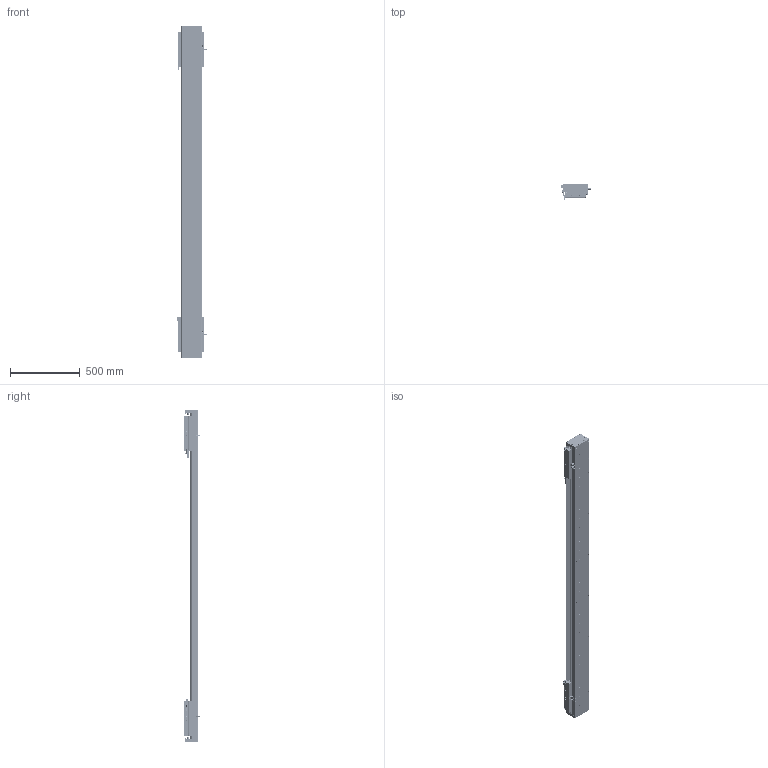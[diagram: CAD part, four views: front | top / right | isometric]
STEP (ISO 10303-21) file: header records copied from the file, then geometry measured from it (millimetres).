
FILE_DESCRIPTION (( 'STEP AP203' ), '1' );
FILE_NAME ('DA-C145-2-C3-T1760-C010-0.2 眻盄萇儂.STEP', '2025-08-13T10:23:00', ( '' ), ( '' ), 'SwSTEP 2.0', 'SolidWorks 2019', '' );
FILE_SCHEMA (( 'CONFIG_CONTROL_DESIGN' ));
Length unit declared in the file: millimetre
Products named in the file (38): 复件 DA145-C3-YB-B-00 压板B^CU145-W 滚珠滑台; 葩璃 CKM03-W060-C1C2-TP-0.2^DA-C145-2-C3-T-C010-0.2; IU-CU145-L 菁釱絳寢; 复件 DA95-HK-GT-00 滑块钢轨^CU145-W-00 一体化滑动台板; 复件 DA145-C3-DK-00 挡块^CU145-W 滚珠滑台; 葩璃 CU145 詩湍郪璃^DA-C145-2-C3-T-C010-0.2; 葩璃 CKMA01-W060-TRL^DA-C145-2-C3-T-C010-0.2; 葩璃 DMA-010-0.2 黍杅芛^DA-C145-2-C3-T-C010-0.2; 66245-CU145-HT-W-00 賑雄怢啣(3D芞祧)(00); 葩璃 DA95-HXJ-00 遣喳砎蝶^DA-C145-2-C3-T-C010-0.2; 复件 DA95-MFP-01 密封片^CU145-W 滚珠滑台; CU145-W 幗紩賑怢-1; 葩璃 PM-T45^DA-C145-2-C3-T-C010-0.2; 复件 DA145-DG 钢带端盖^复件 CU145 钢带组件_DA-C145-2-C3-T-C010-0.2; 复件 内六角平端紧定螺钉 GB.T77-2000 M5×10^CU145-W 滚珠滑台; 复件 DA145-GYP-00 光电感应片^DA-C145-2-C3-T-C010-0.2; 复件 DA95-DB-00  挡板^CU145-W 滚珠滑台; DKW168-HXJ-ZJ-00 笢潔滅袉砎蝶; 复件 纯铜油杯 6x6mm^CU145-W 滚珠滑台; DKW-KGZ-ZJ-00 中间光电开关支架; 葩璃 DA95-GT-T-00^IU-CU145-L 菁釱絳寢; 葩璃 XD-U-02L 棠掑喜^DA-C145-2-C3-T-C010-0.2; 葩璃 PM-Y65^DA-C145-2-C3-T-C010-0.2; TAY01-M8; DA-C145-2-C3-T1760-C010-0.2 眻盄萇儂; IU-CU145-L-00 菁釱(L2340); 葩璃 鞠褒情蹟譫 M3^DA-C145-2-C3-T-C010-0.2; CU145-W-00 珨极趙賑雄怢啣; 复件 DA145-C3-YB-A-00 压板A^CU145-W 滚珠滑台; CU145-W-00 珨极趙賑雄怢啣-1; 复件 DA146 钢带拉块^复件 CU145 钢带组件_DA-C145-2-C3-T-C010-0.2; DKW-GYP-ZJ-00 笢潔嫖萇覜茼え; 复件 DA146 钢带垫块^复件 CU145 钢带组件_DA-C145-2-C3-T-C010-0.2; CU145-W 幗紩賑怢; 复件 DA145 钢带^复件 CU145 钢带组件_DA-C145-2-C3-T-C010-0.2; 葩璃 DA145-C3-DP-A-00 菜えA^CU145-W 幗紩賑怢; 葩璃 DA145-C3-DP-B-00 菜えB^CU145-W 幗紩賑怢; 复件 半圆头内六角螺钉 M3×6^CU145-W 滚珠滑台
Assembly tree (180 placements, depth 4):
  DA-C145-2-C3-T1760-C010-0.2 眻盄萇儂
    IU-CU145-L 菁釱絳寢
      IU-CU145-L-00 菁釱(L2340)
      葩璃 DA95-GT-T-00^IU-CU145-L 菁釱絳寢  x4
    葩璃 CU145 詩湍郪璃^DA-C145-2-C3-T-C010-0.2
      复件 DA145-DG 钢带端盖^复件 CU145 钢带组件_DA-C145-2-C3-T-C010-0.2  x2
      复件 DA146 钢带拉块^复件 CU145 钢带组件_DA-C145-2-C3-T-C010-0.2  x2
      复件 DA146 钢带垫块^复件 CU145 钢带组件_DA-C145-2-C3-T-C010-0.2  x2
      复件 DA145 钢带^复件 CU145 钢带组件_DA-C145-2-C3-T-C010-0.2
    CU145-W 幗紩賑怢
      CU145-W-00 珨极趙賑雄怢啣
        66245-CU145-HT-W-00 賑雄怢啣(3D芞祧)(00)
        复件 DA95-HK-GT-00 滑块钢轨^CU145-W-00 一体化滑动台板  x8
      复件 DA95-MFP-01 密封片^CU145-W 滚珠滑台  x8
      复件 DA95-DB-00  挡板^CU145-W 滚珠滑台  x8
      复件 内六角平端紧定螺钉 GB.T77-2000 M5×10^CU145-W 滚珠滑台  x4
      复件 纯铜油杯 6x6mm^CU145-W 滚珠滑台  x4
      复件 半圆头内六角螺钉 M3×6^CU145-W 滚珠滑台  x16
      复件 DA145-C3-DK-00 挡块^CU145-W 滚珠滑台  x4
      葩璃 DA145-C3-DP-B-00 菜えB^CU145-W 幗紩賑怢  x2
      复件 DA145-C3-YB-B-00 压板B^CU145-W 滚珠滑台  x2
      葩璃 DA145-C3-DP-A-00 菜えA^CU145-W 幗紩賑怢  x3
      复件 DA145-C3-YB-A-00 压板A^CU145-W 滚珠滑台  x3
      TAY01-M8  x4
    CU145-W 幗紩賑怢-1
      CU145-W-00 珨极趙賑雄怢啣-1
        66245-CU145-HT-W-00 賑雄怢啣(3D芞祧)(00)
        复件 DA95-HK-GT-00 滑块钢轨^CU145-W-00 一体化滑动台板  x8
      复件 DA95-MFP-01 密封片^CU145-W 滚珠滑台  x8
      复件 DA95-DB-00  挡板^CU145-W 滚珠滑台  x8
      复件 内六角平端紧定螺钉 GB.T77-2000 M5×10^CU145-W 滚珠滑台  x4
      复件 纯铜油杯 6x6mm^CU145-W 滚珠滑台  x4
      复件 半圆头内六角螺钉 M3×6^CU145-W 滚珠滑台  x16
      复件 DA145-C3-DK-00 挡块^CU145-W 滚珠滑台  x4
      葩璃 DA145-C3-DP-B-00 菜えB^CU145-W 幗紩賑怢  x2
      复件 DA145-C3-YB-B-00 压板B^CU145-W 滚珠滑台  x2
      葩璃 DA145-C3-DP-A-00 菜えA^CU145-W 幗紩賑怢  x3
      复件 DA145-C3-YB-A-00 压板A^CU145-W 滚珠滑台  x3
      TAY01-M8  x4
    葩璃 CKMA01-W060-TRL^DA-C145-2-C3-T-C010-0.2
    葩璃 PM-T45^DA-C145-2-C3-T-C010-0.2  x4
    葩璃 XD-U-02L 棠掑喜^DA-C145-2-C3-T-C010-0.2
    葩璃 DA95-HXJ-00 遣喳砎蝶^DA-C145-2-C3-T-C010-0.2  x4
    葩璃 CKM03-W060-C1C2-TP-0.2^DA-C145-2-C3-T-C010-0.2  x2
    葩璃 DMA-010-0.2 黍杅芛^DA-C145-2-C3-T-C010-0.2  x2
    复件 DA145-GYP-00 光电感应片^DA-C145-2-C3-T-C010-0.2  x2
    DKW-GYP-ZJ-00 笢潔嫖萇覜茼え
    DKW-KGZ-ZJ-00 中间光电开关支架
    葩璃 PM-Y65^DA-C145-2-C3-T-C010-0.2
    葩璃 鞠褒情蹟譫 M3^DA-C145-2-C3-T-C010-0.2  x8
    DKW168-HXJ-ZJ-00 笢潔滅袉砎蝶
Bounding box: 213.7 x 108.45 x 2376 mm (x, y, z)
Volume: 13320966.9 mm3; surface area: 4165737.5 mm2
Topology: 175 solids, 239 shells, 7479 faces, 20109 edges, 12425 vertices
Faces by surface type: cylinder 3192, plane 2947, cone 1184, torus 140, sphere 8, bspline 8
Entity records: 135040 total; most frequent: CARTESIAN_POINT 38066, ORIENTED_EDGE 18904, DIRECTION 18205, EDGE_CURVE 9452, AXIS2_PLACEMENT_3D 6687, VERTEX_POINT 6124, LINE 4831, VECTOR 4831
